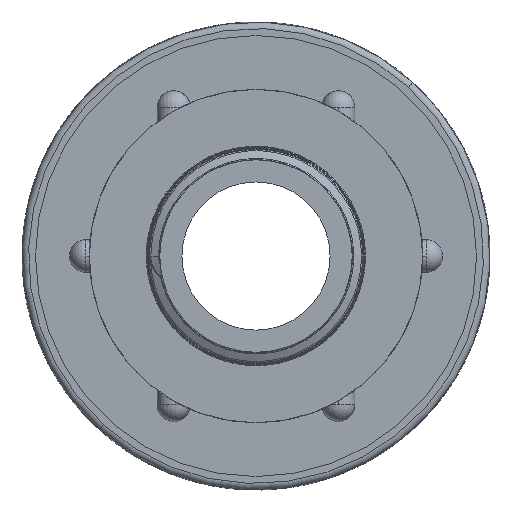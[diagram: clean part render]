
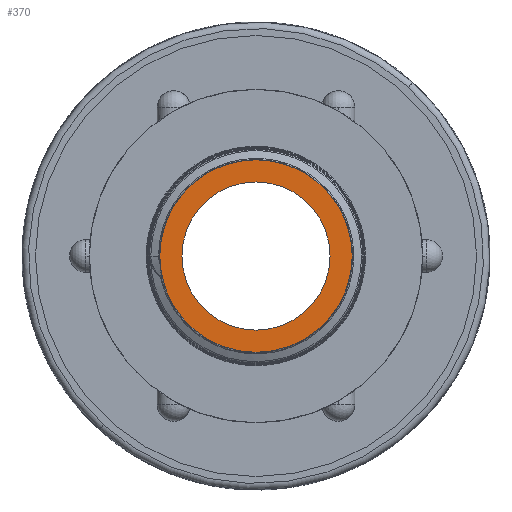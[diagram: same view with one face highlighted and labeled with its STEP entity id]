
A CAD part, left-side view. The second image highlights one B-rep face of the part: STEP entity #370.
In plain terms, the highlighted planar face has unit normal (-1, 0, 0).
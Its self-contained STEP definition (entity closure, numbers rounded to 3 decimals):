
#370 = ADVANCED_FACE ( 'NONE', ( #28564, #28565 ), #28566, .F. ) ;
#10382 = EDGE_CURVE ( 'NONE', #13742, #13741, #29806, .T. ) ;
#10456 = EDGE_CURVE ( 'NONE', #13785, #13783, #29865, .T. ) ;
#10481 = EDGE_CURVE ( 'NONE', #13783, #13785, #29871, .T. ) ;
#10779 = CARTESIAN_POINT ( 'NONE',  ( 0., 0., 0. ) ) ;
#10780 = DIRECTION ( 'NONE',  ( -1., 0., 0. ) ) ;
#10781 = DIRECTION ( 'NONE',  ( 0., 0., 1. ) ) ;
#11282 = CARTESIAN_POINT ( 'NONE',  ( 0., 0., 0. ) ) ;
#11283 = DIRECTION ( 'NONE',  ( -1., 0., 0. ) ) ;
#11284 = DIRECTION ( 'NONE',  ( 0., 0., 1. ) ) ;
#11454 = CARTESIAN_POINT ( 'NONE',  ( 0., 0., 0. ) ) ;
#11455 = DIRECTION ( 'NONE',  ( -1., 0., 0. ) ) ;
#11456 = DIRECTION ( 'NONE',  ( 0., 0., 1. ) ) ;
#13118 = EDGE_LOOP ( 'NONE', ( #25998, #25999 ) ) ;
#13120 = EDGE_LOOP ( 'NONE', ( #25996, #25997 ) ) ;
#13741 = VERTEX_POINT ( 'NONE', #16145 ) ;
#13742 = VERTEX_POINT ( 'NONE', #16146 ) ;
#13783 = VERTEX_POINT ( 'NONE', #16187 ) ;
#13785 = VERTEX_POINT ( 'NONE', #16189 ) ;
#16145 = CARTESIAN_POINT ( 'NONE',  ( 0., 0., 11.25 ) ) ;
#16146 = CARTESIAN_POINT ( 'NONE',  ( 0., 0., -11.25 ) ) ;
#16187 = CARTESIAN_POINT ( 'NONE',  ( 0., 0., -14.62 ) ) ;
#16189 = CARTESIAN_POINT ( 'NONE',  ( 0., 0., 14.62 ) ) ;
#21846 = AXIS2_PLACEMENT_3D ( 'NONE', #28552, #28568, #28569 ) ;
#22593 = CARTESIAN_POINT ( 'NONE',  ( 0., 0., 0. ) ) ;
#22594 = DIRECTION ( 'NONE',  ( -1., 0., 0. ) ) ;
#22595 = DIRECTION ( 'NONE',  ( 0., 0., 1. ) ) ;
#23007 = CIRCLE ( 'NONE', #23010, 11.25 ) ;
#23010 = AXIS2_PLACEMENT_3D ( 'NONE', #22593, #22594, #22595 ) ;
#25996 = ORIENTED_EDGE ( 'NONE', *, *, #30812, .F. ) ;
#25997 = ORIENTED_EDGE ( 'NONE', *, *, #10382, .F. ) ;
#25998 = ORIENTED_EDGE ( 'NONE', *, *, #10481, .T. ) ;
#25999 = ORIENTED_EDGE ( 'NONE', *, *, #10456, .T. ) ;
#28552 = CARTESIAN_POINT ( 'NONE',  ( 0., 11.25, 0. ) ) ;
#28564 = FACE_BOUND ( 'NONE', #13120, .T. ) ;
#28565 = FACE_OUTER_BOUND ( 'NONE', #13118, .T. ) ;
#28566 = PLANE ( 'NONE',  #21846 ) ;
#28568 = DIRECTION ( 'NONE',  ( 1., 0., 0. ) ) ;
#28569 = DIRECTION ( 'NONE',  ( 0., 0., -1. ) ) ;
#29806 = CIRCLE ( 'NONE', #29810, 11.25 ) ;
#29810 = AXIS2_PLACEMENT_3D ( 'NONE', #10779, #10780, #10781 ) ;
#29865 = CIRCLE ( 'NONE', #29868, 14.62 ) ;
#29868 = AXIS2_PLACEMENT_3D ( 'NONE', #11282, #11283, #11284 ) ;
#29871 = CIRCLE ( 'NONE', #29873, 14.62 ) ;
#29873 = AXIS2_PLACEMENT_3D ( 'NONE', #11454, #11455, #11456 ) ;
#30812 = EDGE_CURVE ( 'NONE', #13741, #13742, #23007, .T. ) ;
